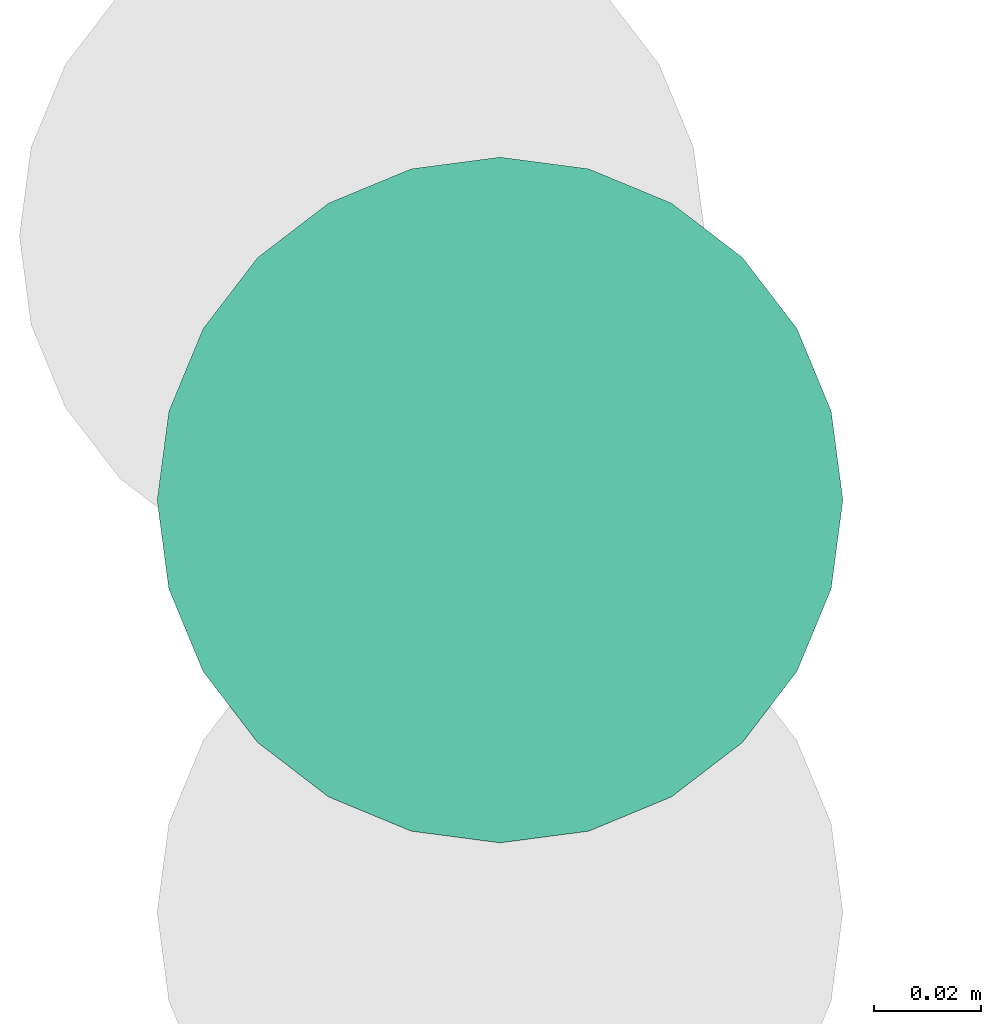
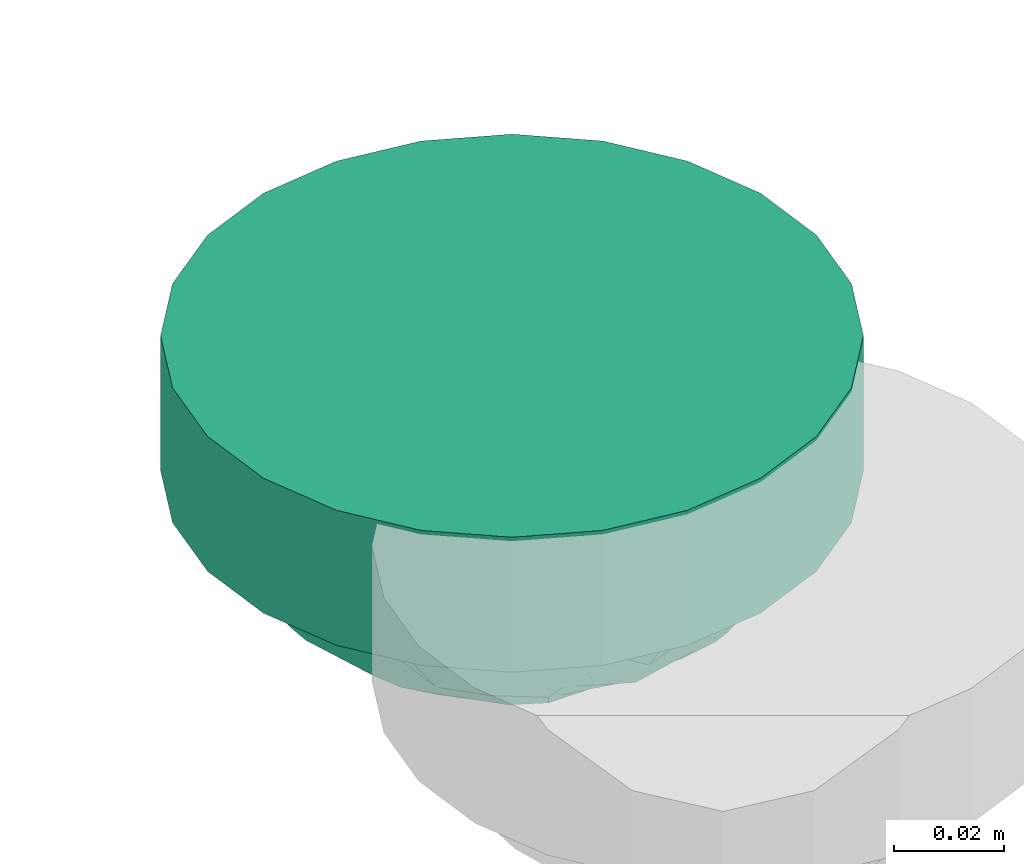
# One storey, part 49 of 153: 1 flow terminal.
"""IFC2X3 building model written with IfcOpenShell, lengths in metres."""

from ifc_helpers import new_model, entity, si_unit, converted_unit, derived_unit, direction, frame, origin, place, context, subcontext, project, spatial, faceted_brep, source, transform, mapped, type_object, type_shapes, element, save


model = new_model("IFC2X3")

# Units and contexts
model_context = context("Model", 3, precision=1e-05, world=origin(), true_north=direction((6.12303176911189e-17, 1.0)))
body_context = subcontext(model_context, "Body", "Model", "MODEL_VIEW")
ifc_project = project(units=[si_unit("LENGTHUNIT", "METRE"), si_unit("AREAUNIT", "SQUARE_METRE"), si_unit("VOLUMEUNIT", "CUBIC_METRE"), converted_unit("PLANEANGLEUNIT", "DEGREE", entity("IfcRatioMeasure", 0.0174532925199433), si_unit("PLANEANGLEUNIT", "RADIAN"), dimensions=[0, 0, 0, 0, 0, 0, 0]), si_unit("MASSUNIT", "GRAM", prefix="KILO"), derived_unit("MASSDENSITYUNIT", [(si_unit("MASSUNIT", "GRAM", prefix="KILO"), 1), (si_unit("LENGTHUNIT", "METRE"), -3)]), si_unit("TIMEUNIT", "SECOND"), si_unit("FREQUENCYUNIT", "HERTZ"), si_unit("THERMODYNAMICTEMPERATUREUNIT", "DEGREE_CELSIUS"), derived_unit("THERMALTRANSMITTANCEUNIT", [(si_unit("MASSUNIT", "GRAM", prefix="KILO"), 1), (si_unit("THERMODYNAMICTEMPERATUREUNIT", "KELVIN"), -1), (si_unit("TIMEUNIT", "SECOND"), -3)]), derived_unit("VOLUMETRICFLOWRATEUNIT", [(si_unit("LENGTHUNIT", "METRE"), 3), (si_unit("TIMEUNIT", "SECOND"), -1)]), si_unit("ELECTRICCURRENTUNIT", "AMPERE"), si_unit("ELECTRICVOLTAGEUNIT", "VOLT"), si_unit("POWERUNIT", "WATT"), si_unit("FORCEUNIT", "NEWTON"), si_unit("ILLUMINANCEUNIT", "LUX"), si_unit("LUMINOUSFLUXUNIT", "LUMEN"), si_unit("LUMINOUSINTENSITYUNIT", "CANDELA"), derived_unit("USERDEFINED", [(si_unit("MASSUNIT", "GRAM", prefix="KILO"), -1), (si_unit("LENGTHUNIT", "METRE"), -2), (si_unit("TIMEUNIT", "SECOND"), 3), (si_unit("LUMINOUSFLUXUNIT", "LUMEN"), 1)]), derived_unit("LINEARVELOCITYUNIT", [(si_unit("LENGTHUNIT", "METRE"), 1), (si_unit("TIMEUNIT", "SECOND"), -1)]), si_unit("PRESSUREUNIT", "PASCAL"), derived_unit("USERDEFINED", [(si_unit("LENGTHUNIT", "METRE"), -2), (si_unit("MASSUNIT", "GRAM", prefix="KILO"), 1), (si_unit("TIMEUNIT", "SECOND"), -2)])], contexts=[model_context])

# Site, building, storey
site_placement = place(None, origin())
site = spatial("IfcSite", under=ifc_project, at=site_placement, Name="Default", CompositionType="ELEMENT")
building_placement = place(site_placement, origin())
building = spatial("IfcBuilding", under=site, at=building_placement, CompositionType="ELEMENT")
storey_placement = place(building_placement, frame((0.0, 0.0, -4.62)))
storey = spatial("IfcBuildingStorey", under=building, at=storey_placement, Name="S02", CompositionType="ELEMENT", Elevation=-4.62)

# Flow terminal
light_fixture_type = type_object("IfcLightFixtureType", Name="Détecteur 360°", PredefinedType="NOTDEFINED")
shared_shape = source(origin(), body_context, "Body", "Brep", [
    faceted_brep([(-0.0175153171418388, 0.0435914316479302, 0.0478512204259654), (0.0, 0.034524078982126, 0.0563702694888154), (0.0, 0.0397165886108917, 0.0531256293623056), (0.0, -0.00603476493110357, 0.0659648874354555), (0.0, 0.0, 0.0669999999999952), (-0.0194029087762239, 0.000878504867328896, 0.0644483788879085), (-0.0269980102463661, 0.0195753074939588, 0.0584711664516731), (-0.0366619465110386, 0.0127227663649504, 0.0549213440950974), (-0.0174057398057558, 0.0159851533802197, 0.0630502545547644), (-0.0276843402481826, 0.0401006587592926, 0.0459804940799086), (-0.0359767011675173, 0.0348394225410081, 0.0444249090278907), (-0.0202403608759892, 0.0335607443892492, 0.054639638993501), (-0.0256912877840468, 0.0533485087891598, 0.0299999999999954), (-0.0172617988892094, 0.0486391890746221, 0.042533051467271), (-0.0133088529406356, 0.0517577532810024, 0.0400582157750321), (-0.0462941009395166, 0.0369183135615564, 0.0299999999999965), (-0.0186245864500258, 0.0267295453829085, 0.0589100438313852), (0.0, 0.0241390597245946, 0.0628595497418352), (-0.0139070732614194, 0.0374370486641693, 0.0540817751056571), (0.0, -0.0397165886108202, 0.0531256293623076), (-0.0172618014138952, -0.0486391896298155, 0.0425330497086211), (0.0, -0.0449090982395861, 0.049880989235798), (-0.0353547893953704, -0.0284533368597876, 0.0494330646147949), (-0.0202403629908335, -0.0335607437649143, 0.054639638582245), (-0.0186245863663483, -0.0267295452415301, 0.0589100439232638), (-0.0191783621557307, -0.0150189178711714, 0.0627751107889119), (-0.0249385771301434, -0.0204731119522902, 0.0590841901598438), (0.0, -0.0120695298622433, 0.0649297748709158), (-0.0453471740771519, 0.0286501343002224, 0.0397747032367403), (-0.052010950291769, 0.0250471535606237, 0.029999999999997), (-0.0465404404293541, 0.0196510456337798, 0.0438984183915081), (-0.0365036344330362, 0.0226255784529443, 0.0516441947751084), (-0.0276843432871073, -0.0401006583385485, 0.0459804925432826), (-0.0359926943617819, -0.0451334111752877, 0.0299999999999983), (-0.0175153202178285, -0.0435914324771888, 0.0478512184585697), (0.0, 0.049890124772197, 0.0429575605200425), (0.0, 0.0545512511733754, 0.0364787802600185), (0.0, 0.0592123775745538, 0.0299999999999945), (-0.00849704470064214, 0.0572729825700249, 0.0299999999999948), (-0.0169940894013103, 0.055333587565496, 0.0299999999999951), (-0.035976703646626, -0.0348394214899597, 0.0444249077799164), (-0.0308419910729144, -0.0492409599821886, 0.0299999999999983), (-0.025691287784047, -0.0533485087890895, 0.0299999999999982), (-0.0130265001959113, -0.0514867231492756, 0.040526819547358), (0.0, -0.0498901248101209, 0.0429575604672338), (-0.0169940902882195, -0.0553335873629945, 0.029999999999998), (-0.0353547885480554, 0.0284533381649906, 0.0494330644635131), (0.0, -0.0181042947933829, 0.0638946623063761), (-0.036659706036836, 0.00328672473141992, 0.0563153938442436), (-0.0485435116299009, 0.009089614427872, 0.0452357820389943), (-0.0473669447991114, 0.00128092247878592, 0.0474310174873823), (0.0, 0.00603476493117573, 0.0659648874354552), (-0.0226425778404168, 0.0107553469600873, 0.0624973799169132), (-0.0139070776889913, -0.0374370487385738, 0.0540817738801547), (0.0, -0.0293315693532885, 0.0596149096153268), (-0.0453471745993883, -0.0286501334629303, 0.0397747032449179), (-0.0449600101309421, -0.018422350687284, 0.0461366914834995), (-0.0577277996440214, -0.0131759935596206, 0.0299999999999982), (-0.0476906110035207, -0.00670602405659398, 0.0466053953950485), (0.0, 0.0449090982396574, 0.0498809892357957), (-0.0308419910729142, 0.049240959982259, 0.0299999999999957), (-0.0359926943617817, 0.0451334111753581, 0.029999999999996), (0.0, -0.0345240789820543, 0.0563702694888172), (-0.0462941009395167, -0.0369183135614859, 0.0299999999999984), (-0.0411433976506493, -0.0410258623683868, 0.0299999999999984), (-0.0491525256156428, 0.03098273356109, 0.0299999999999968), (-0.0577277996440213, 0.0131759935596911, 0.0299999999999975), (0.0, 0.018104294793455, 0.0638946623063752), (-0.0377433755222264, -0.00448382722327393, 0.0554913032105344), (-0.0577277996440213, 0.00658799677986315, 0.0299999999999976), (-0.0577277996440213, -0.00658799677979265, 0.029999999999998), (-0.0577277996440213, 0.0, 0.0299999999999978), (-0.0385149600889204, -0.012484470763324, 0.0536578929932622), (-0.0491525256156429, -0.0309827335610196, 0.0299999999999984), (-0.0548693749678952, -0.0191115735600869, 0.0299999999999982), (0.0, -0.0241390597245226, 0.0628595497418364), (-0.0146256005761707, -0.0100436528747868, 0.0649170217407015), (-0.0271766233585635, -0.00920278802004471, 0.0609170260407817), (0.0, 0.0120695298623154, 0.0649297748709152), (-0.0520109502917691, -0.0250471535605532, 0.0299999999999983), (-0.0411433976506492, 0.0410258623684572, 0.0299999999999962), (-0.0548693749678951, 0.0191115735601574, 0.0299999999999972), (0.0, 0.0293315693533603, 0.0596149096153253), (-0.0127455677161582, -0.0563032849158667, 0.0299999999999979), (-0.00849704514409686, -0.057272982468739, 0.0299999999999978), (0.0, -0.0592123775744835, 0.0299999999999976), (0.0, -0.0545512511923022, 0.0364787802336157), (-0.0213426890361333, -0.054341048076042, 0.0299999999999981), (0.0175153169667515, -0.0435914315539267, 0.0478512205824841), (0.0194029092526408, -0.000878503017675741, 0.0644483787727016), (0.0269980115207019, -0.0195753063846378, 0.0584711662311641), (0.0366619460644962, -0.012722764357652, 0.0549213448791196), (0.0174057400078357, -0.0159851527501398, 0.0630502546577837), (0.0276843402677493, -0.0401006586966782, 0.0459804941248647), (0.0359767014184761, -0.0348394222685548, 0.0444249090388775), (0.0202403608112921, -0.0335607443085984, 0.0546396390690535), (0.0256912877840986, -0.0533485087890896, 0.0299999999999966), (0.0172617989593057, -0.0486391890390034, 0.0425330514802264), (0.0133088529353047, -0.0517577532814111, 0.0400582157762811), (0.0462941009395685, -0.0369183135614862, 0.0299999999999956), (0.00849704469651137, -0.0572729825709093, 0.0299999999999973), (0.0169940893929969, -0.0553335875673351, 0.029999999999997), (0.0308419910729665, 0.0492409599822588, 0.0299999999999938), (0.025691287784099, 0.0533485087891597, 0.0299999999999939), (0.0172617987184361, 0.0486391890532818, 0.0425330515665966), (0.0175153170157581, 0.0435914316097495, 0.0478512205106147), (0.0353547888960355, 0.0284533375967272, 0.0494330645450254), (0.0202403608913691, 0.03356074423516, 0.0546396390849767), (0.0186245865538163, 0.0267295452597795, 0.0589100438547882), (0.0191783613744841, 0.0150189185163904, 0.0627751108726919), (0.0249385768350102, 0.0204731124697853, 0.0590841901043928), (0.0520109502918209, -0.0250471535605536, 0.0299999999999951), (0.0548693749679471, -0.0191115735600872, 0.0299999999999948), (0.0577277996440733, -0.0131759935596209, 0.0299999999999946), (0.0465404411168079, -0.0196510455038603, 0.0438984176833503), (0.018624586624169, -0.0267295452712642, 0.0589100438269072), (0.0365036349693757, -0.0226255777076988, 0.0516441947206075), (0.0276843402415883, 0.0401006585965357, 0.0459804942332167), (0.0359926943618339, 0.0451334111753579, 0.0299999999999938), (0.0139070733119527, -0.0374370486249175, 0.0540817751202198), (0.0359767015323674, 0.0348394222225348, 0.044424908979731), (0.0226425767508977, -0.0107553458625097, 0.0624973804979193), (0.0130264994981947, 0.0514867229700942, 0.0405268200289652), (0.0169940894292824, 0.0553335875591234, 0.0299999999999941), (0.0353547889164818, -0.0284533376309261, 0.0494330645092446), (0.0453471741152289, -0.0286501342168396, 0.039774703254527), (0.0366597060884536, -0.00328672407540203, 0.0563153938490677), (0.0485435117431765, -0.00908961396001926, 0.0452357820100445), (0.0473669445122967, -0.00128092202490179, 0.0474310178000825), (0.0139070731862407, 0.0374370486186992, 0.0540817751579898), (0.0453471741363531, 0.0286501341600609, 0.039774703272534), (0.0449600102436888, 0.018422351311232, 0.0461366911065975), (0.0577277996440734, 0.0131759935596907, 0.0299999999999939), (0.0476906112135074, 0.00670602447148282, 0.0466053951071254), (0.0308419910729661, -0.0492409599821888, 0.0299999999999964), (0.0359926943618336, -0.0451334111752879, 0.0299999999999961), (0.0462941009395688, 0.0369183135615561, 0.0299999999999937), (0.0411433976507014, 0.041025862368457, 0.0299999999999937), (0.0491525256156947, -0.0309827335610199, 0.0299999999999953), (0.0377433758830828, 0.00448382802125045, 0.0554913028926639), (0.0577277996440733, -0.00658799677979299, 0.0299999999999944), (0.0577277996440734, 0.00658799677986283, 0.0299999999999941), (0.0577277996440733, 0.0, 0.0299999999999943), (0.0385149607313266, 0.0124844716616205, 0.0536578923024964), (0.049152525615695, 0.0309827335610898, 0.0299999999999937), (0.0548693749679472, 0.0191115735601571, 0.0299999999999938), (0.0146256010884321, 0.0100436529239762, 0.0649170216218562), (0.0271766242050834, 0.00920278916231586, 0.0609170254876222), (0.0520109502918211, 0.0250471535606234, 0.0299999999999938), (0.041143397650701, -0.0410258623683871, 0.0299999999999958), (0.0127455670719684, 0.056303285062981, 0.0299999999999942), (0.0084970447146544, 0.0572729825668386, 0.0299999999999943), (0.0213426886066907, 0.0543410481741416, 0.029999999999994), (0.0, 0.0, 0.0299999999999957)], [[[0, 1, 2]], [[3, 4, 5]], [[6, 7, 8]], [[9, 10, 11]], [[12, 13, 14]], [[9, 15, 10]], [[16, 17, 11]], [[9, 11, 18]], [[19, 20, 21]], [[22, 23, 24]], [[25, 26, 27]], [[28, 29, 30]], [[16, 31, 6]], [[32, 33, 34]], [[35, 36, 37, 38, 39]], [[22, 40, 23]], [[41, 42, 20]], [[20, 43, 21]], [[44, 43, 45]], [[19, 34, 20]], [[46, 10, 28]], [[47, 26, 24]], [[48, 49, 50]], [[51, 52, 5]], [[23, 53, 54]], [[55, 22, 56]], [[57, 56, 58]], [[2, 59, 13]], [[0, 2, 13]], [[13, 60, 0]], [[1, 0, 18]], [[61, 9, 0]], [[19, 62, 34]], [[33, 41, 34]], [[63, 64, 33, 32]], [[34, 41, 20]], [[32, 34, 53]], [[31, 28, 30]], [[15, 65, 10]], [[30, 66, 49]], [[67, 16, 6]], [[52, 8, 7]], [[7, 31, 30]], [[68, 50, 58]], [[48, 50, 68]], [[49, 69, 50]], [[70, 57, 58, 71]], [[52, 48, 5]], [[22, 26, 56]], [[68, 58, 72]], [[72, 56, 26]], [[73, 40, 55]], [[56, 74, 55]], [[24, 75, 47]], [[5, 4, 51]], [[49, 48, 7]], [[5, 76, 3]], [[77, 5, 68]], [[51, 78, 52]], [[47, 27, 26]], [[25, 27, 76]], [[75, 24, 23]], [[22, 24, 26]], [[53, 62, 54]], [[40, 32, 23]], [[32, 40, 63]], [[73, 63, 40]], [[79, 73, 55, 74]], [[26, 25, 72]], [[22, 55, 40]], [[54, 75, 23]], [[17, 16, 67]], [[67, 8, 78]], [[11, 10, 46]], [[16, 11, 46]], [[52, 7, 48]], [[65, 29, 28]], [[9, 61, 80, 15]], [[81, 66, 30, 29]], [[65, 28, 10]], [[31, 46, 28]], [[1, 18, 82]], [[11, 17, 82]], [[49, 7, 30]], [[35, 39, 14]], [[14, 13, 59]], [[83, 84, 85, 86, 44, 45]], [[20, 42, 43]], [[43, 42, 87, 45]], [[62, 53, 34]], [[32, 53, 23]], [[82, 18, 11]], [[9, 18, 0]], [[12, 14, 39]], [[14, 59, 35]], [[61, 0, 60]], [[13, 12, 60]], [[46, 31, 16]], [[6, 31, 7]], [[69, 71, 50]], [[49, 66, 69]], [[58, 50, 71]], [[48, 68, 5]], [[77, 68, 72]], [[25, 77, 72]], [[72, 58, 56]], [[56, 57, 74]], [[77, 25, 76]], [[77, 76, 5]], [[3, 76, 27]], [[6, 8, 67]], [[8, 52, 78]], [[21, 43, 44]], [[88, 62, 19]], [[51, 4, 89]], [[90, 91, 92]], [[93, 94, 95]], [[96, 97, 98]], [[93, 99, 94]], [[44, 86, 85, 100, 101]], [[102, 103, 104]], [[2, 105, 104]], [[106, 107, 108]], [[109, 110, 78]], [[111, 112, 113, 114]], [[115, 116, 90]], [[117, 118, 105]], [[93, 95, 119]], [[106, 120, 107]], [[3, 121, 89]], [[35, 122, 123]], [[104, 122, 59]], [[115, 75, 95]], [[124, 94, 125]], [[67, 110, 108]], [[126, 127, 128]], [[2, 104, 59]], [[107, 129, 82]], [[130, 106, 131]], [[132, 131, 133]], [[19, 21, 97]], [[88, 19, 97]], [[97, 134, 88]], [[62, 88, 119]], [[135, 93, 88]], [[2, 1, 105]], [[118, 102, 105]], [[136, 137, 118, 117]], [[105, 102, 104]], [[117, 105, 129]], [[116, 125, 114]], [[99, 138, 94]], [[114, 113, 127]], [[47, 115, 90]], [[27, 92, 121]], [[91, 116, 114]], [[139, 128, 133]], [[126, 128, 139]], [[127, 140, 128]], [[141, 132, 133, 142]], [[121, 126, 89]], [[106, 110, 131]], [[139, 133, 143]], [[143, 131, 110]], [[144, 120, 130]], [[131, 145, 130]], [[108, 17, 67]], [[89, 4, 3]], [[127, 126, 91]], [[89, 146, 51]], [[147, 89, 139]], [[3, 27, 121]], [[67, 78, 110]], [[109, 78, 146]], [[17, 108, 107]], [[106, 108, 110]], [[129, 1, 82]], [[120, 117, 107]], [[117, 120, 136]], [[144, 136, 120]], [[148, 144, 130, 145]], [[110, 109, 143]], [[106, 130, 120]], [[82, 17, 107]], [[75, 115, 47]], [[47, 92, 27]], [[95, 94, 124]], [[115, 95, 124]], [[121, 91, 126]], [[138, 111, 125]], [[93, 135, 149, 99]], [[125, 111, 114]], [[138, 125, 94]], [[116, 124, 125]], [[62, 119, 54]], [[95, 75, 54]], [[127, 91, 114]], [[44, 101, 98]], [[98, 97, 21]], [[150, 151, 37, 36, 35, 123]], [[104, 103, 122]], [[122, 103, 152, 123]], [[1, 129, 105]], [[117, 129, 107]], [[54, 119, 95]], [[93, 119, 88]], [[96, 98, 101]], [[98, 21, 44]], [[135, 88, 134]], [[97, 96, 134]], [[124, 116, 115]], [[90, 116, 91]], [[140, 142, 128]], [[127, 113, 140]], [[133, 128, 142]], [[126, 139, 89]], [[147, 139, 143]], [[109, 147, 143]], [[143, 133, 131]], [[131, 132, 145]], [[147, 109, 146]], [[147, 146, 89]], [[51, 146, 78]], [[121, 92, 91]], [[90, 92, 47]], [[59, 122, 35]], [[153, 42, 41]], [[153, 41, 33]], [[153, 33, 64]], [[153, 64, 63]], [[153, 63, 73]], [[153, 73, 79]], [[153, 79, 74]], [[153, 74, 57]], [[153, 57, 70]], [[153, 87, 42]], [[153, 45, 87]], [[153, 83, 45]], [[153, 84, 83]], [[153, 85, 84]], [[153, 70, 71]], [[153, 71, 69]], [[153, 69, 66]], [[153, 66, 81]], [[153, 81, 29]], [[153, 29, 65]], [[153, 65, 15]], [[153, 15, 80]], [[153, 80, 61]], [[153, 61, 60]], [[153, 60, 12]], [[153, 12, 39]], [[153, 39, 38]], [[153, 38, 37]], [[153, 37, 151]], [[153, 100, 85]], [[153, 101, 100]], [[153, 96, 101]], [[153, 134, 96]], [[153, 135, 134]], [[153, 149, 135]], [[153, 99, 149]], [[153, 138, 99]], [[153, 111, 138]], [[153, 112, 111]], [[153, 113, 112]], [[153, 151, 150]], [[153, 150, 123]], [[153, 123, 152]], [[153, 152, 103]], [[153, 103, 102]], [[153, 102, 118]], [[153, 118, 137]], [[153, 137, 136]], [[153, 136, 144]], [[153, 144, 148]], [[153, 148, 145]], [[153, 145, 132]], [[153, 132, 141]], [[153, 141, 142]], [[153, 142, 140]], [[153, 140, 113]]]),
    faceted_brep([(0.0452548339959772, 0.0452548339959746, 0.0299999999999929), (0.0320000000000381, 0.0554256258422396, 0.0299999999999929), (0.0165644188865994, 0.0618192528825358, 0.029999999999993), (0.0, 0.0640000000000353, 0.0299999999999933), (-0.0165644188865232, 0.0618192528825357, 0.0299999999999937), (-0.0319999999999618, 0.0554256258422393, 0.0299999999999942), (-0.0452548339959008, 0.0452548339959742, 0.0299999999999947), (-0.0554256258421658, 0.0320000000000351, 0.0299999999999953), (-0.061819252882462, 0.0165644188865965, 0.0299999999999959), (-0.0639999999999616, 0.0, 0.0299999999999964), (-0.0618192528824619, -0.0165644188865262, 0.0299999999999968), (-0.0554256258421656, -0.0319999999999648, 0.0299999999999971), (-0.0452548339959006, -0.0452548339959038, 0.0299999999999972), (-0.0319999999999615, -0.0554256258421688, 0.0299999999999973), (-0.0165644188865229, -0.061819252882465, 0.0299999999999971), (0.0, -0.0639999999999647, 0.0299999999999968), (0.0165644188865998, -0.061819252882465, 0.0299999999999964), (0.0320000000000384, -0.0554256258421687, 0.0299999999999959), (0.0452548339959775, -0.0452548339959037, 0.0299999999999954), (0.0554256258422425, -0.0319999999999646, 0.0299999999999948), (0.0618192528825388, -0.016564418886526, 0.0299999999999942), (0.0640000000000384, 0.0, 0.0299999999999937), (0.0618192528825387, 0.016564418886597, 0.0299999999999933), (0.0554256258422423, 0.0320000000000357, 0.029999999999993), (0.0, -0.0639999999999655, 0.0), (-0.0165644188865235, -0.0618192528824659, 0.0), (-0.0319999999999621, -0.0554256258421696, 0.0), (-0.0452548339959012, -0.0452548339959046, 0.0), (-0.0554256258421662, -0.0319999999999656, 0.0), (-0.0618192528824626, -0.016564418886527, 0.0), (-0.0639999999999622, 0.0, 0.0), (-0.0618192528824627, 0.0165644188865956, 0.0), (-0.0554256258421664, 0.0320000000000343, 0.0), (-0.0452548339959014, 0.0452548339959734, 0.0), (-0.0319999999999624, 0.0554256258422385, 0.0), (-0.0165644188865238, 0.0618192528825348, 0.0), (0.0, 0.0640000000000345, 0.0), (0.0165644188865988, 0.061819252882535, 0.0), (0.0320000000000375, 0.0554256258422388, 0.0), (0.0452548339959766, 0.0452548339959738, 0.0), (0.0554256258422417, 0.0320000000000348, 0.0), (0.061819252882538, 0.0165644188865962, 0.0), (0.0640000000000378, 0.0, 0.0), (0.0618192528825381, -0.0165644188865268, 0.0), (0.0554256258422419, -0.0319999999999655, 0.0), (0.0452548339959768, -0.0452548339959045, 0.0), (0.0320000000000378, -0.0554256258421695, 0.0), (0.0165644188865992, -0.0618192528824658, 0.0)], [[[0, 1, 2, 3, 4, 5, 6, 7, 8, 9, 10, 11, 12, 13, 14, 15, 16, 17, 18, 19, 20, 21, 22, 23]], [[24, 25, 26, 27, 28, 29, 30, 31, 32, 33, 34, 35, 36, 37, 38, 39, 40, 41, 42, 43, 44, 45, 46, 47]], [[30, 9, 8, 31]], [[31, 8, 7, 32]], [[34, 33, 6, 5]], [[6, 33, 32, 7]], [[35, 34, 5, 4]], [[35, 4, 3, 36]], [[36, 3, 2, 37]], [[37, 2, 1, 38]], [[40, 39, 0, 23]], [[0, 39, 38, 1]], [[41, 40, 23, 22]], [[41, 22, 21, 42]], [[42, 21, 20, 43]], [[43, 20, 19, 44]], [[46, 45, 18, 17]], [[18, 45, 44, 19]], [[47, 46, 17, 16]], [[47, 16, 15, 24]], [[24, 15, 14, 25]], [[25, 14, 13, 26]], [[10, 9, 30, 29]], [[26, 13, 12, 27]], [[12, 11, 28, 27]], [[11, 10, 29, 28]]]),
])
type_shapes(light_fixture_type, [shared_shape])
flow_terminal_placement = place(storey_placement, frame((25.5154544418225, -183.918599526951, 4.62), z_axis=(0.0, 0.0, -1.0), x_axis=(1.0, 0.0, 0.0)))
element("IfcFlowTerminal", 1, at=flow_terminal_placement, inside=storey, type_object=light_fixture_type, Name="INT - Détecteur 360°:Détecteur 360°", ObjectType="INT - Détecteur 360°:Détecteur 360°", context=body_context, shape_type="MappedRepresentation", body=[
    mapped(shared_shape, transform((0.0, 0.0, 0.0), scale=1.0)),
])

save(model, "model.ifc")
